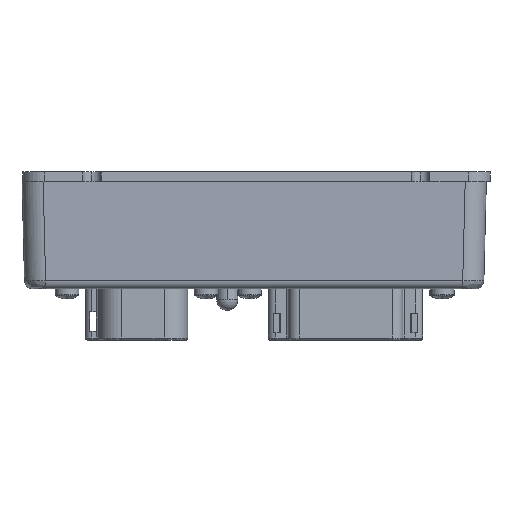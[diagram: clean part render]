
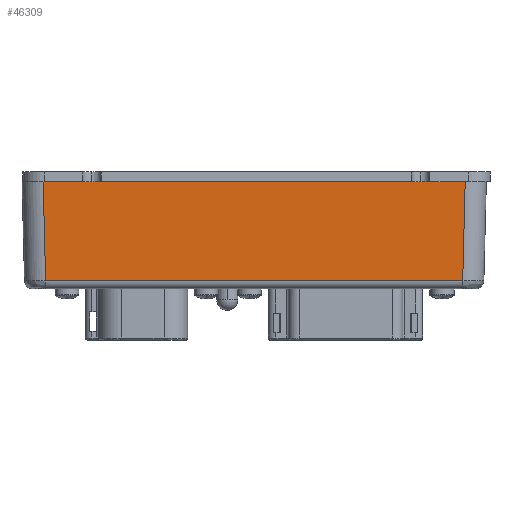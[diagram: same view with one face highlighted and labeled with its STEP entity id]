
A CAD part, front view. The second image highlights one B-rep face of the part: STEP entity #46309.
In plain terms, the highlighted planar face has unit normal (0, -1, -0.025).
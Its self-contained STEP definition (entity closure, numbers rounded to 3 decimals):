
#4304 = DIRECTION ( 'NONE',  ( -0.025, 0.025, -0.999 ) ) ;
#4362 = DIRECTION ( 'NONE',  ( 0., 0.025, -1. ) ) ;
#7330 = VERTEX_POINT ( 'NONE', #77413 ) ;
#8342 = EDGE_CURVE ( 'NONE', #7330, #126121, #18875, .T. ) ;
#15807 = VECTOR ( 'NONE', #85557, 1000. ) ;
#18152 = VECTOR ( 'NONE', #68323, 1000. ) ;
#18875 = LINE ( 'NONE', #47737, #15807 ) ;
#22366 = DIRECTION ( 'NONE',  ( -1., 0., 0. ) ) ;
#24675 = VECTOR ( 'NONE', #4304, 1000. ) ;
#40229 = EDGE_CURVE ( 'NONE', #85380, #90742, #55807, .T. ) ;
#46309 = ADVANCED_FACE ( 'NONE', ( #107042 ), #81873, .T. ) ;
#47737 = CARTESIAN_POINT ( 'NONE',  ( -55.25, -40.836, -14.6 ) ) ;
#50906 = CARTESIAN_POINT ( 'NONE',  ( -49.887, -40.836, -14.6 ) ) ;
#51740 = CARTESIAN_POINT ( 'NONE',  ( -27.625, -40.25, -38.05 ) ) ;
#52644 = CARTESIAN_POINT ( 'NONE',  ( -49.302, -40.25, -38.05 ) ) ;
#55807 = LINE ( 'NONE', #51740, #104479 ) ;
#62770 = DIRECTION ( 'NONE',  ( 0., -1., -0.025 ) ) ;
#68323 = DIRECTION ( 'NONE',  ( -0.025, -0.025, 0.999 ) ) ;
#68731 = EDGE_CURVE ( 'NONE', #90742, #126121, #69976, .T. ) ;
#69976 = LINE ( 'NONE', #106978, #18152 ) ;
#71125 = ORIENTED_EDGE ( 'NONE', *, *, #102442, .F. ) ;
#77413 = CARTESIAN_POINT ( 'NONE',  ( 49.887, -40.836, -14.6 ) ) ;
#81873 = PLANE ( 'NONE',  #95121 ) ;
#85380 = VERTEX_POINT ( 'NONE', #122152 ) ;
#85557 = DIRECTION ( 'NONE',  ( -1., 0., 0. ) ) ;
#85998 = ORIENTED_EDGE ( 'NONE', *, *, #40229, .F. ) ;
#90239 = EDGE_LOOP ( 'NONE', ( #71125, #102288, #96105, #85998 ) ) ;
#90742 = VERTEX_POINT ( 'NONE', #52644 ) ;
#95121 = AXIS2_PLACEMENT_3D ( 'NONE', #121015, #62770, #4362 ) ;
#96105 = ORIENTED_EDGE ( 'NONE', *, *, #68731, .F. ) ;
#102264 = LINE ( 'NONE', #120964, #24675 ) ;
#102288 = ORIENTED_EDGE ( 'NONE', *, *, #8342, .T. ) ;
#102442 = EDGE_CURVE ( 'NONE', #7330, #85380, #102264, .T. ) ;
#104479 = VECTOR ( 'NONE', #22366, 1000. ) ;
#106978 = CARTESIAN_POINT ( 'NONE',  ( -50.242, -41.19, -0.389 ) ) ;
#107042 = FACE_OUTER_BOUND ( 'NONE', #90239, .T. ) ;
#120964 = CARTESIAN_POINT ( 'NONE',  ( 50.22, -41.169, -1.253 ) ) ;
#121015 = CARTESIAN_POINT ( 'NONE',  ( -55.25, -41.2, 0. ) ) ;
#122152 = CARTESIAN_POINT ( 'NONE',  ( 49.302, -40.25, -38.05 ) ) ;
#126121 = VERTEX_POINT ( 'NONE', #50906 ) ;
